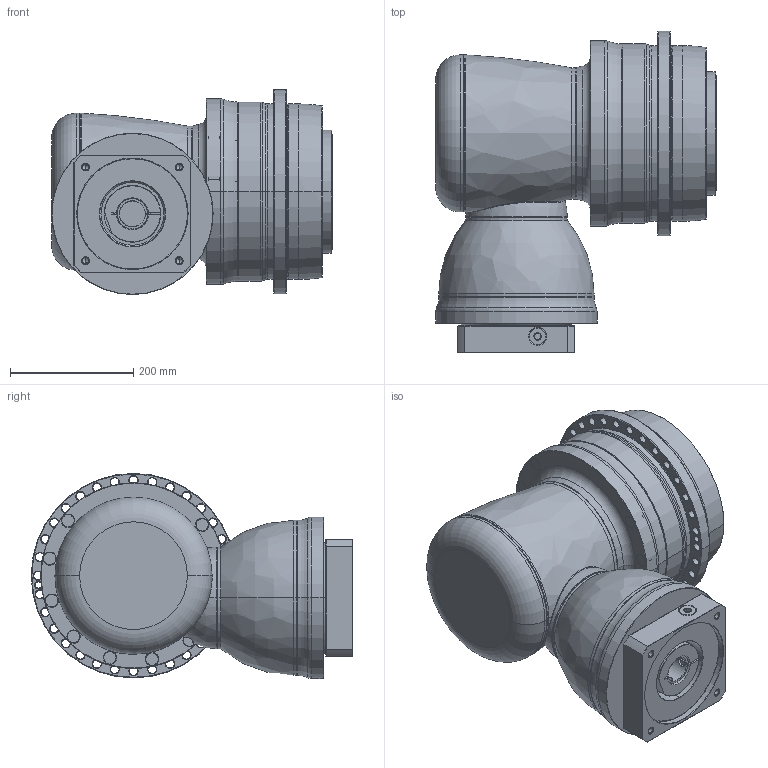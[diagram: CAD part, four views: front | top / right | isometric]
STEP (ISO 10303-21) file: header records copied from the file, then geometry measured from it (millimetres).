
FILE_DESCRIPTION((''),'2;1');
FILE_NAME('APK285_2ST_42-P0409A00201_ASM','2018-06-25T',('D00080'),(''),'PRO/ENGINEER BY PARAMETRIC TECHNOLOGY CORPORATION, 2008170','PRO/ENGINEER BY PARAMETRIC TECHNOLOGY CORPORATION, 2008170','');
FILE_SCHEMA(('CONFIG_CONTROL_DESIGN'));
Length unit declared in the file: millimetre
Products named in the file (13): P1008700002; P1802810001; P0278801003; P0359801103; P1211800001; P1315700001; P1007701001; P1318701201; P0503A00012; P0912702001; P0409A00201; 21711422019; APK285_2ST_42-P0409A00201_ASM
Assembly tree (12 placements, depth 2):
  APK285_2ST_42-P0409A00201_ASM
    P1008700002
    P1802810001
    P0278801003
    P0359801103
    P1211800001
    P1315700001
    P1007701001
    P1318701201
    P0503A00012
    P0912702001
    P0409A00201
    21711422019
Bounding box: 455.5 x 522 x 333 mm (x, y, z)
Volume: 34486328.8 mm3; surface area: 1914249.3 mm2
Topology: 13 solids, 36 shells, 906 faces, 2043 edges, 1236 vertices
Faces by surface type: cylinder 368, cone 276, plane 152, torus 80, bspline 28, sphere 2
Entity records: 32951 total; most frequent: CARTESIAN_POINT 11782, DIRECTION 4898, ORIENTED_EDGE 3920, AXIS2_PLACEMENT_3D 2093, EDGE_CURVE 2007, VERTEX_POINT 1236, CIRCLE 1178, EDGE_LOOP 1099
